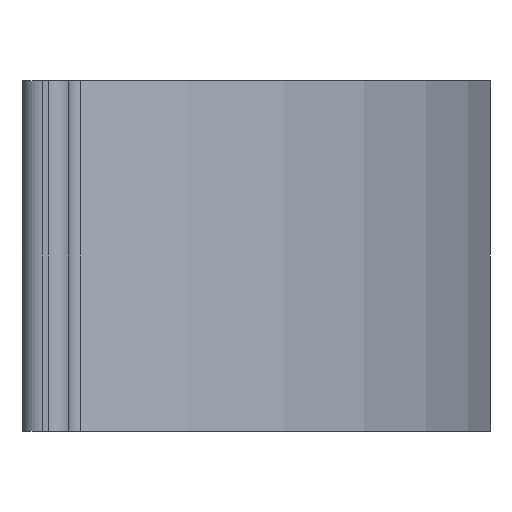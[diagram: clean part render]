
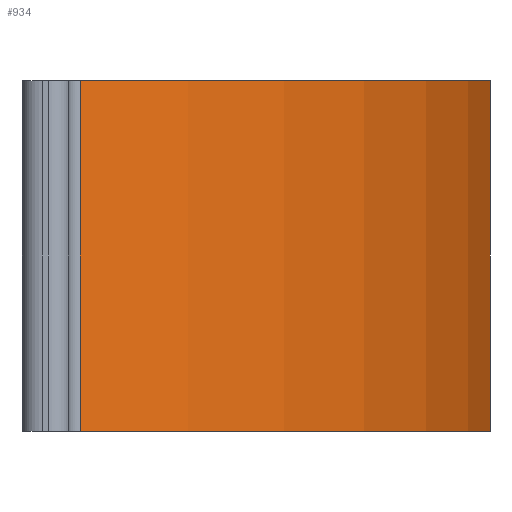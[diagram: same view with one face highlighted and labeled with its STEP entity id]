
A CAD part, left-side view. The second image highlights one B-rep face of the part: STEP entity #934.
In plain terms, the highlighted cylindrical face has radius 64.237 mm (diameter 128.475 mm), a partial arc.
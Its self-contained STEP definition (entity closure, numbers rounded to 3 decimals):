
#101 = VERTEX_POINT ( 'NONE', #1056 ) ;
#132 = DIRECTION ( 'NONE',  ( 0., 0., -1. ) ) ;
#144 = VERTEX_POINT ( 'NONE', #727 ) ;
#150 = CARTESIAN_POINT ( 'NONE',  ( -57.339, -28.961, 15. ) ) ;
#154 = CARTESIAN_POINT ( 'NONE',  ( 0., 0., -15. ) ) ;
#170 = AXIS2_PLACEMENT_3D ( 'NONE', #286, #290, #903 ) ;
#233 = CYLINDRICAL_SURFACE ( 'NONE', #239, 64.237 ) ;
#239 = AXIS2_PLACEMENT_3D ( 'NONE', #588, #132, #836 ) ;
#286 = CARTESIAN_POINT ( 'NONE',  ( 0., 0., 15. ) ) ;
#290 = DIRECTION ( 'NONE',  ( 0., 0., 1. ) ) ;
#331 = CARTESIAN_POINT ( 'NONE',  ( -57.339, -28.961, 15. ) ) ;
#396 = ORIENTED_EDGE ( 'NONE', *, *, #756, .F. ) ;
#411 = CARTESIAN_POINT ( 'NONE',  ( 57.339, -28.961, 15. ) ) ;
#412 = VERTEX_POINT ( 'NONE', #150 ) ;
#453 = CARTESIAN_POINT ( 'NONE',  ( -57.339, -28.961, -15. ) ) ;
#455 = CIRCLE ( 'NONE', #791, 64.237 ) ;
#505 = EDGE_CURVE ( 'NONE', #582, #144, #455, .T. ) ;
#582 = VERTEX_POINT ( 'NONE', #453 ) ;
#588 = CARTESIAN_POINT ( 'NONE',  ( 0., 0., 15. ) ) ;
#601 = DIRECTION ( 'NONE',  ( 0., 0., 1. ) ) ;
#635 = LINE ( 'NONE', #411, #902 ) ;
#700 = DIRECTION ( 'NONE',  ( 0., 0., 1. ) ) ;
#707 = DIRECTION ( 'NONE',  ( 1., 0., 0. ) ) ;
#727 = CARTESIAN_POINT ( 'NONE',  ( 57.339, -28.961, -15. ) ) ;
#750 = ORIENTED_EDGE ( 'NONE', *, *, #505, .T. ) ;
#756 = EDGE_CURVE ( 'NONE', #412, #101, #799, .T. ) ;
#791 = AXIS2_PLACEMENT_3D ( 'NONE', #154, #700, #707 ) ;
#799 = CIRCLE ( 'NONE', #170, 64.237 ) ;
#831 = ORIENTED_EDGE ( 'NONE', *, *, #1038, .T. ) ;
#836 = DIRECTION ( 'NONE',  ( -1., 0., 0. ) ) ;
#891 = LINE ( 'NONE', #331, #976 ) ;
#902 = VECTOR ( 'NONE', #601, 1000. ) ;
#903 = DIRECTION ( 'NONE',  ( 1., 0., 0. ) ) ;
#934 = ADVANCED_FACE ( 'NONE', ( #1077 ), #233, .T. ) ;
#954 = DIRECTION ( 'NONE',  ( 0., 0., -1. ) ) ;
#967 = ORIENTED_EDGE ( 'NONE', *, *, #1067, .T. ) ;
#976 = VECTOR ( 'NONE', #954, 1000. ) ;
#1036 = EDGE_LOOP ( 'NONE', ( #396, #967, #750, #831 ) ) ;
#1038 = EDGE_CURVE ( 'NONE', #144, #101, #635, .T. ) ;
#1056 = CARTESIAN_POINT ( 'NONE',  ( 57.339, -28.961, 15. ) ) ;
#1067 = EDGE_CURVE ( 'NONE', #412, #582, #891, .T. ) ;
#1077 = FACE_OUTER_BOUND ( 'NONE', #1036, .T. ) ;
